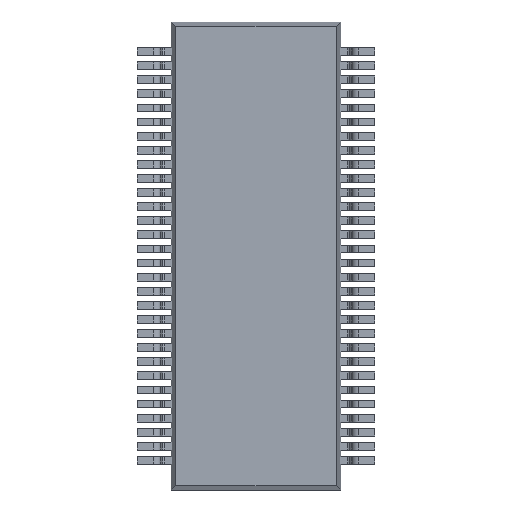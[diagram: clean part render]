
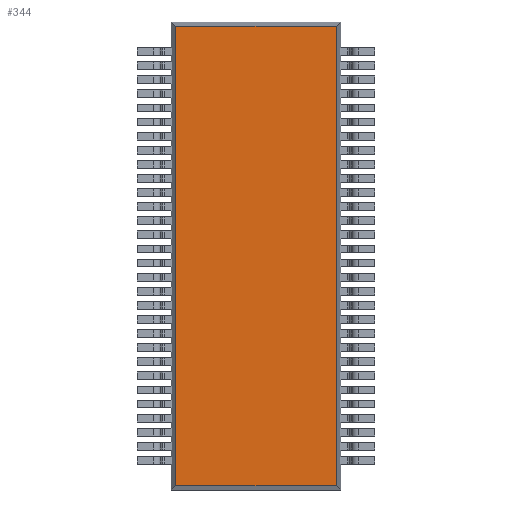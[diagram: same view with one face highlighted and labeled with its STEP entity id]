
A CAD part, front view. The second image highlights one B-rep face of the part: STEP entity #344.
In plain terms, the highlighted planar face has unit normal (0, -1, 0).
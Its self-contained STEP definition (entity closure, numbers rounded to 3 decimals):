
#344 = ADVANCED_FACE ( 'NONE', ( #30393 ), #30743, .F. ) ;
#11331 = LINE ( 'NONE', #12415, #11337 ) ;
#11332 = LINE ( 'NONE', #12421, #11335 ) ;
#11335 = VECTOR ( 'NONE', #12423, 1000. ) ;
#11337 = VECTOR ( 'NONE', #12424, 1000. ) ;
#11619 = LINE ( 'NONE', #12731, #11711 ) ;
#11708 = LINE ( 'NONE', #12730, #11782 ) ;
#11711 = VECTOR ( 'NONE', #12822, 1000. ) ;
#11782 = VECTOR ( 'NONE', #12894, 1000. ) ;
#12415 = CARTESIAN_POINT ( 'NONE',  ( 3.81, 0.2, 10.343 ) ) ;
#12421 = CARTESIAN_POINT ( 'NONE',  ( 3.81, 0.2, -10.343 ) ) ;
#12423 = DIRECTION ( 'NONE',  ( 1., 0., 0. ) ) ;
#12424 = DIRECTION ( 'NONE',  ( -1., 0., 0. ) ) ;
#12730 = CARTESIAN_POINT ( 'NONE',  ( 3.613, 0.2, 10.54 ) ) ;
#12731 = CARTESIAN_POINT ( 'NONE',  ( -3.613, 0.2, 10.54 ) ) ;
#12822 = DIRECTION ( 'NONE',  ( 0., 0., -1. ) ) ;
#12894 = DIRECTION ( 'NONE',  ( 0., 0., 1. ) ) ;
#13169 = CARTESIAN_POINT ( 'NONE',  ( -3.613, 0.2, 10.343 ) ) ;
#13193 = CARTESIAN_POINT ( 'NONE',  ( 3.613, 0.2, 10.343 ) ) ;
#13198 = CARTESIAN_POINT ( 'NONE',  ( -3.613, 0.2, -10.343 ) ) ;
#13200 = CARTESIAN_POINT ( 'NONE',  ( 3.613, 0.2, -10.343 ) ) ;
#18925 = ORIENTED_EDGE ( 'NONE', *, *, #21109, .T. ) ;
#18926 = ORIENTED_EDGE ( 'NONE', *, *, #20915, .T. ) ;
#18927 = ORIENTED_EDGE ( 'NONE', *, *, #21145, .T. ) ;
#18928 = ORIENTED_EDGE ( 'NONE', *, *, #20916, .T. ) ;
#20915 = EDGE_CURVE ( 'NONE', #25615, #25617, #11332, .T. ) ;
#20916 = EDGE_CURVE ( 'NONE', #25610, #25586, #11331, .T. ) ;
#21109 = EDGE_CURVE ( 'NONE', #25586, #25615, #11619, .T. ) ;
#21145 = EDGE_CURVE ( 'NONE', #25617, #25610, #11708, .T. ) ;
#25239 = EDGE_LOOP ( 'NONE', ( #18925, #18926, #18927, #18928 ) ) ;
#25586 = VERTEX_POINT ( 'NONE', #13169 ) ;
#25610 = VERTEX_POINT ( 'NONE', #13193 ) ;
#25615 = VERTEX_POINT ( 'NONE', #13198 ) ;
#25617 = VERTEX_POINT ( 'NONE', #13200 ) ;
#27903 = AXIS2_PLACEMENT_3D ( 'NONE', #30745, #30749, #30750 ) ;
#30393 = FACE_OUTER_BOUND ( 'NONE', #25239, .T. ) ;
#30743 = PLANE ( 'NONE',  #27903 ) ;
#30745 = CARTESIAN_POINT ( 'NONE',  ( 0., 0.2, 0. ) ) ;
#30749 = DIRECTION ( 'NONE',  ( 0., 1., 0. ) ) ;
#30750 = DIRECTION ( 'NONE',  ( 0., 0., 1. ) ) ;
